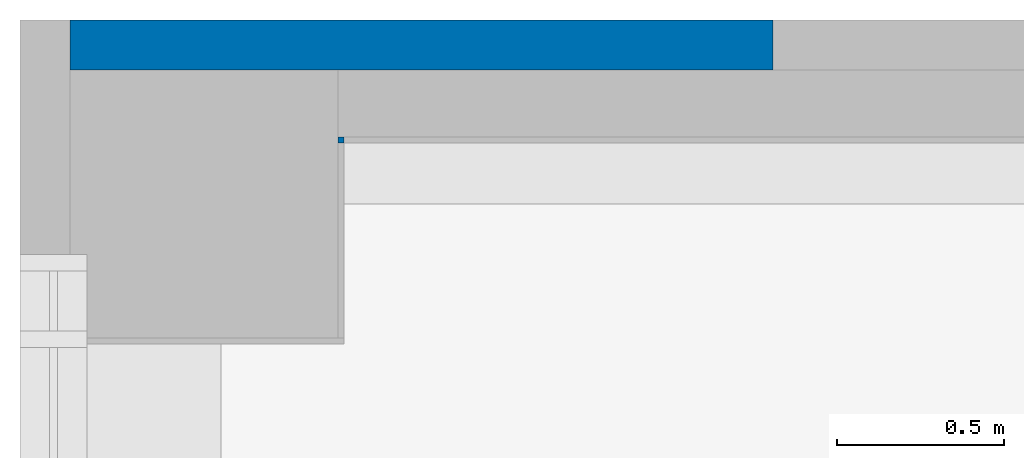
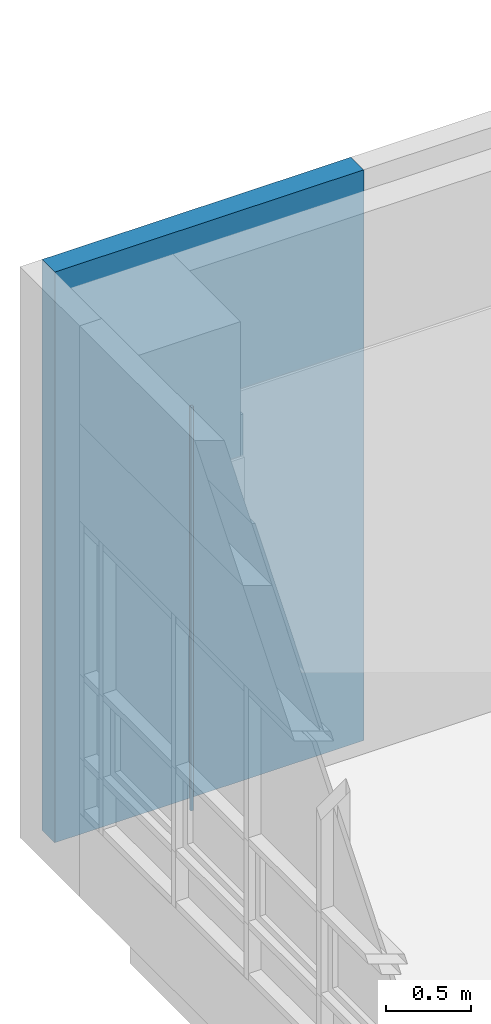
# One storey, part 66 of 81: 2 walls.
"""IFC2X3 building model written with IfcOpenShell, lengths in millimetres."""

from ifc_helpers import new_model, entity, si_unit, converted_unit, derived_unit, direction, frame, frame_2d, origin, place, context, subcontext, project, spatial, rectangle, extrude, material, layer, layer_set, layer_usage, type_object, element, save


model = new_model("IFC2X3")

# Units and contexts
model_context = context("Model", 3, precision=0.01, world=origin(), true_north=direction((6.123031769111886e-17, 1.0)))
body_context = subcontext(model_context, "Body", "Model", "MODEL_VIEW")
ifc_project = project(units=[si_unit("LENGTHUNIT", "METRE", prefix="MILLI"), si_unit("AREAUNIT", "SQUARE_METRE"), si_unit("VOLUMEUNIT", "CUBIC_METRE"), converted_unit("PLANEANGLEUNIT", "DEGREE", entity("IfcRatioMeasure", 0.017453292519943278), si_unit("PLANEANGLEUNIT", "RADIAN"), dimensions=[0, 0, 0, 0, 0, 0, 0]), si_unit("MASSUNIT", "GRAM", prefix="KILO"), derived_unit("MASSDENSITYUNIT", [(si_unit("MASSUNIT", "GRAM", prefix="KILO"), 1), (si_unit("LENGTHUNIT", "METRE"), -3)]), derived_unit("MOMENTOFINERTIAUNIT", [(si_unit("LENGTHUNIT", "METRE"), 4)]), si_unit("TIMEUNIT", "SECOND"), si_unit("FREQUENCYUNIT", "HERTZ"), si_unit("THERMODYNAMICTEMPERATUREUNIT", "DEGREE_CELSIUS"), derived_unit("THERMALTRANSMITTANCEUNIT", [(si_unit("MASSUNIT", "GRAM", prefix="KILO"), 1), (si_unit("THERMODYNAMICTEMPERATUREUNIT", "KELVIN"), -1), (si_unit("TIMEUNIT", "SECOND"), -3)]), derived_unit("VOLUMETRICFLOWRATEUNIT", [(si_unit("LENGTHUNIT", "METRE"), 3), (si_unit("TIMEUNIT", "SECOND"), -1)]), derived_unit("MASSFLOWRATEUNIT", [(si_unit("MASSUNIT", "GRAM", prefix="KILO"), 1), (si_unit("TIMEUNIT", "SECOND"), -1)]), derived_unit("ROTATIONALFREQUENCYUNIT", [(si_unit("TIMEUNIT", "SECOND"), -1)]), si_unit("ELECTRICCURRENTUNIT", "AMPERE"), si_unit("ELECTRICVOLTAGEUNIT", "VOLT"), si_unit("POWERUNIT", "WATT"), si_unit("FORCEUNIT", "NEWTON", prefix="KILO"), si_unit("ILLUMINANCEUNIT", "LUX"), si_unit("LUMINOUSFLUXUNIT", "LUMEN"), si_unit("LUMINOUSINTENSITYUNIT", "CANDELA"), derived_unit("USERDEFINED", [(si_unit("MASSUNIT", "GRAM", prefix="KILO"), -1), (si_unit("LENGTHUNIT", "METRE"), -2), (si_unit("TIMEUNIT", "SECOND"), 3), (si_unit("LUMINOUSFLUXUNIT", "LUMEN"), 1)]), derived_unit("SOUNDPOWERUNIT", [(si_unit("MASSUNIT", "GRAM", prefix="KILO"), 1), (si_unit("LENGTHUNIT", "METRE"), 2), (si_unit("TIMEUNIT", "SECOND"), -3)]), derived_unit("SOUNDPRESSUREUNIT", [(si_unit("MASSUNIT", "GRAM", prefix="KILO"), 1), (si_unit("LENGTHUNIT", "METRE"), -1), (si_unit("TIMEUNIT", "SECOND"), -2)]), derived_unit("LINEARVELOCITYUNIT", [(si_unit("LENGTHUNIT", "METRE"), 1), (si_unit("TIMEUNIT", "SECOND"), -1)]), si_unit("PRESSUREUNIT", "PASCAL"), derived_unit("USERDEFINED", [(si_unit("LENGTHUNIT", "METRE"), -2), (si_unit("MASSUNIT", "GRAM", prefix="KILO"), 1), (si_unit("TIMEUNIT", "SECOND"), -2)]), derived_unit("LINEARFORCEUNIT", [(si_unit("MASSUNIT", "GRAM", prefix="KILO"), 1), (si_unit("LENGTHUNIT", "METRE"), 1), (si_unit("TIMEUNIT", "SECOND"), -2), (si_unit("LENGTHUNIT", "METRE"), -1)]), derived_unit("PLANARFORCEUNIT", [(si_unit("MASSUNIT", "GRAM", prefix="KILO"), 1), (si_unit("LENGTHUNIT", "METRE"), 1), (si_unit("TIMEUNIT", "SECOND"), -2), (si_unit("LENGTHUNIT", "METRE"), -2)])], contexts=[model_context])

# Site, building, storey
site_placement = place(None, frame((-14167.972527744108, -657.2125860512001, 0.0)))
site = spatial("IfcSite", under=ifc_project, at=site_placement, Name="Default", CompositionType="ELEMENT")
building_placement = place(site_placement, origin())
building = spatial("IfcBuilding", under=site, at=building_placement, Name="Sample Building", CompositionType="ELEMENT")
storey_placement = place(building_placement, frame((0.0, 0.0, 13400.0)))
storey = spatial("IfcBuildingStorey", under=building, at=storey_placement, Name="지상 4층", CompositionType="ELEMENT", Elevation=13400.00000000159)

# Walls
ifc_material_1 = material(Name="WA785-금속외장패널")
ifc_layer_1 = layer(ifc_material_1, 25.0)
ifc_material_2 = material(Name="WA793-금속 긴결철물 벽")
ifc_layer_2 = layer(ifc_material_2, 75.0)
ifc_material_3 = material(Name="WA821-압출스티로폼 벽 (본드붙임, 비중0.03) 50mm")
ifc_layer_3 = layer(ifc_material_3, 50.0)
ifc_layer_set_1 = layer_set([ifc_layer_1, ifc_layer_2, ifc_layer_3], Name="기본 벽:A2-26-01A-압출스티로폼, 금속 긴결철물, 금속외장패널 (150mm)")
ifc_layer_usage_1 = layer_usage(ifc_layer_set_1, "AXIS2", "NEGATIVE", 75.0)
wall_type_1 = type_object("IfcWallType", Name="기본 벽:A2-26-01A-압출스티로폼, 금속 긴결철물, 금속외장패널 (150mm)", PredefinedType="STANDARD", material=ifc_layer_set_1)
wall_1_placement = place(storey_placement, frame((14067.955105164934, 35832.21229514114, -2.297844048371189e-09)))
element("IfcWallStandardCase", 1, at=wall_1_placement, inside=storey, type_object=wall_type_1, material=ifc_layer_usage_1, Name="기본 벽:A2-26-01A-압출스티로폼, 금속 긴결철물, 금속외장패널 (150mm)", ObjectType="기본 벽:A2-26-01A-압출스티로폼, 금속 긴결철물, 금속외장패널 (150mm)", context=body_context, shape_type="SweptSolid", body=[
    extrude(rectangle(XDim=2099.384549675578, YDim=150.00000000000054, at=frame_2d((1049.692274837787, -2.913225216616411e-13), x_axis=(-1.0, 0.0))), origin(), (0.0, 0.0, 1.0), 4099.999999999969),
])
ifc_material_4 = material(Name="WA611-수성페인트 (내부) 벽 (3회)")
ifc_layer_4 = layer(ifc_material_4, 1.0)
ifc_material_5 = material(Name="WA551-시멘트모르타르 (내부) 벽 18mm")
ifc_layer_5 = layer(ifc_material_5, 16.0)
ifc_material_6 = material(Name="WA555-콘크리트면정리 벽 (내부)")
ifc_layer_6 = layer(ifc_material_6, 1.0)
ifc_layer_set_2 = layer_set([ifc_layer_4, ifc_layer_5, ifc_layer_6], Name="기본 벽:A1-32-06A-콘크리트면정리, 시멘트모르타르(미장용), 수성페인트(내부) (18mm)")
ifc_layer_usage_2 = layer_usage(ifc_layer_set_2, "AXIS2", "NEGATIVE", 9.000000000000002)
wall_type_2 = type_object("IfcWallType", Name="기본 벽:A1-32-06A-콘크리트면정리, 시멘트모르타르(미장용), 수성페인트(내부) (18mm)", PredefinedType="STANDARD", material=ifc_layer_set_2)
wall_2_placement = place(storey_placement, frame((14876.972472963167, 35557.21188609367, 80.0), z_axis=(0.0, 0.0, 1.0), x_axis=(0.0, -1.0, 0.0)))
element("IfcWallStandardCase", 2, at=wall_2_placement, inside=storey, type_object=wall_type_2, material=ifc_layer_usage_2, Name="기본 벽:A1-32-06A-콘크리트면정리, 시멘트모르타르(미장용), 수성페인트(내부) (18mm)", ObjectType="기본 벽:A1-32-06A-콘크리트면정리, 시멘트모르타르(미장용), 수성페인트(내부) (18mm)", context=body_context, shape_type="SweptSolid", body=[
    extrude(rectangle(XDim=18.000000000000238, YDim=18.000000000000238, at=frame_2d((9.000000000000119, 0.0), x_axis=(-1.0, 0.0))), origin(), (0.0, 0.0, 1.0), 2899.999999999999),
])

save(model, "model.ifc")
